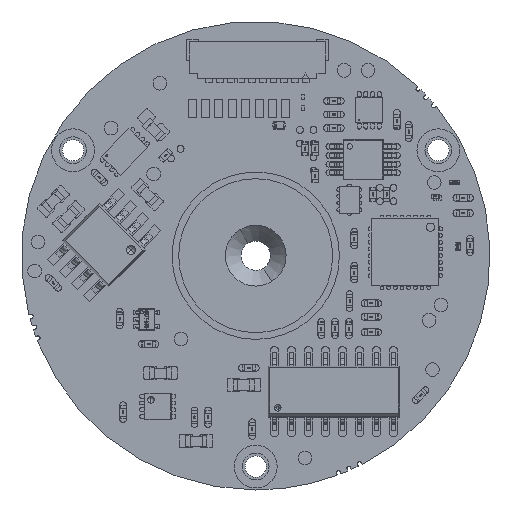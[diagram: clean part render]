
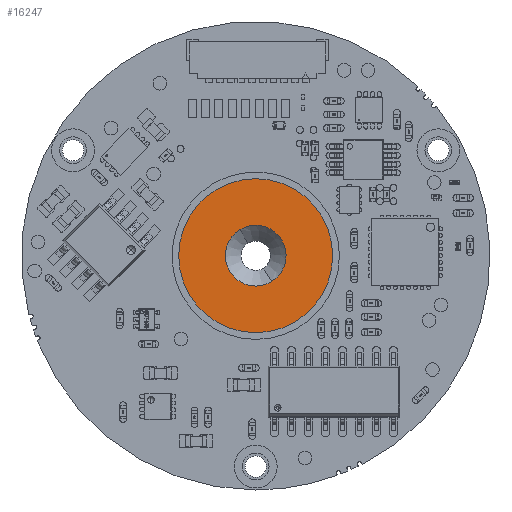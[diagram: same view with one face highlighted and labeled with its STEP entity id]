
A CAD part, front view. The second image highlights one B-rep face of the part: STEP entity #16247.
In plain terms, the highlighted planar face has unit normal (0, -1, 0) as drawn and (0, 1, 0) by its records, which use the part's own axes.
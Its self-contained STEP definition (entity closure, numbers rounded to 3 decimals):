
#1577 = AXIS2_PLACEMENT_3D ( 'NONE', #83447, #174082, #27326 ) ;
#16247 = ADVANCED_FACE ( 'NONE', ( #203475, #139817 ), #234355, .T. ) ;
#27326 = DIRECTION ( 'NONE',  ( 0., 0., 1. ) ) ;
#29720 = AXIS2_PLACEMENT_3D ( 'NONE', #145409, #85661, #320937 ) ;
#36068 = DIRECTION ( 'NONE',  ( 0., 1., 0. ) ) ;
#42830 = EDGE_CURVE ( 'NONE', #127531, #253864, #295063, .T. ) ;
#55544 = VERTEX_POINT ( 'NONE', #279013 ) ;
#78180 = EDGE_LOOP ( 'NONE', ( #252251, #363955 ) ) ;
#83447 = CARTESIAN_POINT ( 'NONE',  ( 0., 1.57, 0. ) ) ;
#83635 = VERTEX_POINT ( 'NONE', #90690 ) ;
#85661 = DIRECTION ( 'NONE',  ( 0., -1., 0. ) ) ;
#90690 = CARTESIAN_POINT ( 'NONE',  ( 0., 1.57, -2.27 ) ) ;
#101937 = EDGE_CURVE ( 'NONE', #253864, #127531, #381026, .T. ) ;
#127531 = VERTEX_POINT ( 'NONE', #197035 ) ;
#133442 = CIRCLE ( 'NONE', #164272, 2.27 ) ;
#139817 = FACE_OUTER_BOUND ( 'NONE', #242810, .T. ) ;
#143325 = ORIENTED_EDGE ( 'NONE', *, *, #42830, .F. ) ;
#145409 = CARTESIAN_POINT ( 'NONE',  ( 0., 1.57, 0. ) ) ;
#158695 = EDGE_CURVE ( 'NONE', #55544, #83635, #291413, .T. ) ;
#163570 = DIRECTION ( 'NONE',  ( 0., -1., 0. ) ) ;
#164272 = AXIS2_PLACEMENT_3D ( 'NONE', #334941, #36068, #219314 ) ;
#174082 = DIRECTION ( 'NONE',  ( 0., 1., 0. ) ) ;
#184107 = AXIS2_PLACEMENT_3D ( 'NONE', #310170, #163570, #373862 ) ;
#197035 = CARTESIAN_POINT ( 'NONE',  ( 0., 1.57, -6.6 ) ) ;
#203475 = FACE_BOUND ( 'NONE', #78180, .T. ) ;
#219314 = DIRECTION ( 'NONE',  ( 0., 0., 1. ) ) ;
#220639 = CARTESIAN_POINT ( 'NONE',  ( 0., 1.57, 6.6 ) ) ;
#228611 = CARTESIAN_POINT ( 'NONE',  ( 0., 1.57, 0. ) ) ;
#234355 = PLANE ( 'NONE',  #360819 ) ;
#242810 = EDGE_LOOP ( 'NONE', ( #143325, #292397 ) ) ;
#252251 = ORIENTED_EDGE ( 'NONE', *, *, #158695, .F. ) ;
#253864 = VERTEX_POINT ( 'NONE', #220639 ) ;
#257616 = DIRECTION ( 'NONE',  ( 0., 1., 0. ) ) ;
#268346 = EDGE_CURVE ( 'NONE', #83635, #55544, #133442, .T. ) ;
#279013 = CARTESIAN_POINT ( 'NONE',  ( 0., 1.57, 2.27 ) ) ;
#291413 = CIRCLE ( 'NONE', #1577, 2.27 ) ;
#292397 = ORIENTED_EDGE ( 'NONE', *, *, #101937, .F. ) ;
#295063 = CIRCLE ( 'NONE', #184107, 6.6 ) ;
#310170 = CARTESIAN_POINT ( 'NONE',  ( 0., 1.57, 0. ) ) ;
#320937 = DIRECTION ( 'NONE',  ( 0., 0., 1. ) ) ;
#334941 = CARTESIAN_POINT ( 'NONE',  ( 0., 1.57, 0. ) ) ;
#360819 = AXIS2_PLACEMENT_3D ( 'NONE', #228611, #257616, #379119 ) ;
#363955 = ORIENTED_EDGE ( 'NONE', *, *, #268346, .F. ) ;
#373862 = DIRECTION ( 'NONE',  ( 0., 0., 1. ) ) ;
#379119 = DIRECTION ( 'NONE',  ( 0., 0., 1. ) ) ;
#381026 = CIRCLE ( 'NONE', #29720, 6.6 ) ;
